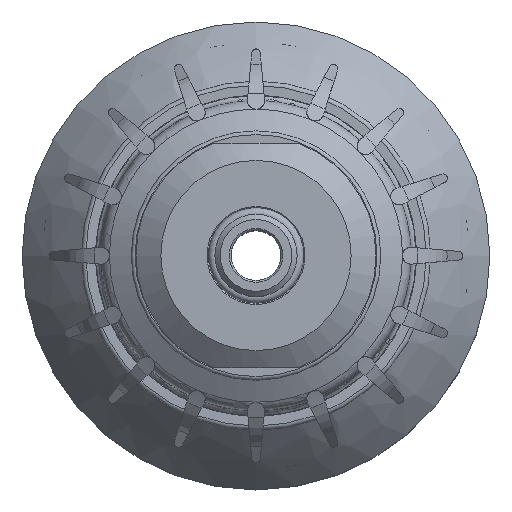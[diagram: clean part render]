
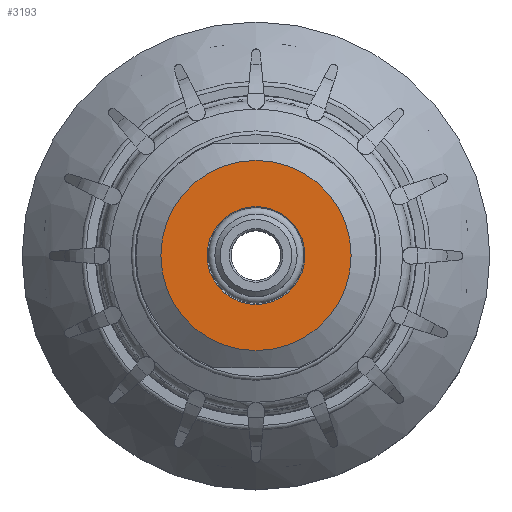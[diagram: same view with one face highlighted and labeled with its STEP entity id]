
A CAD part, top view. The second image highlights one B-rep face of the part: STEP entity #3193.
In plain terms, the highlighted planar face has unit normal (0, 0, 1).
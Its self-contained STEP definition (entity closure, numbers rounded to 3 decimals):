
#3193 = ADVANCED_FACE( '', ( #6547, #6548 ), #6549, .T. );
#6547 = FACE_BOUND( '', #12878, .T. );
#6548 = FACE_OUTER_BOUND( '', #12879, .T. );
#6549 = PLANE( '', #12880 );
#12878 = EDGE_LOOP( '', ( #16981 ) );
#12879 = EDGE_LOOP( '', ( #16982 ) );
#12880 = AXIS2_PLACEMENT_3D( '', #16983, #16984, #16985 );
#16981 = ORIENTED_EDGE( '', *, *, #23919, .T. );
#16982 = ORIENTED_EDGE( '', *, *, #23898, .F. );
#16983 = CARTESIAN_POINT( '', ( -15.25, 0., 4.65 ) );
#16984 = DIRECTION( '', ( 0., 0., 1. ) );
#16985 = DIRECTION( '', ( 1., 0., 0. ) );
#23898 = EDGE_CURVE( '', #25892, #25892, #25893, .T. );
#23919 = EDGE_CURVE( '', #25928, #25928, #25929, .T. );
#25892 = VERTEX_POINT( '', #30872 );
#25893 = CIRCLE( '', #30873, 15.25 );
#25928 = VERTEX_POINT( '', #30976 );
#25929 = CIRCLE( '', #30977, 7.85 );
#30872 = CARTESIAN_POINT( '', ( -15.25, 0., 4.65 ) );
#30873 = AXIS2_PLACEMENT_3D( '', #34217, #34218, #34219 );
#30976 = CARTESIAN_POINT( '', ( -7.85, 0., 4.65 ) );
#30977 = AXIS2_PLACEMENT_3D( '', #34250, #34251, #34252 );
#34217 = CARTESIAN_POINT( '', ( 0., 0., 4.65 ) );
#34218 = DIRECTION( '', ( 0., 0., -1. ) );
#34219 = DIRECTION( '', ( -1., 0., 0. ) );
#34250 = CARTESIAN_POINT( '', ( 0., 0., 4.65 ) );
#34251 = DIRECTION( '', ( 0., 0., -1. ) );
#34252 = DIRECTION( '', ( -1., 0., 0. ) );
